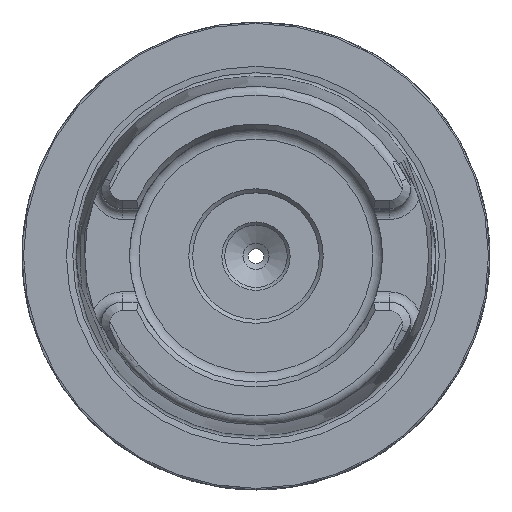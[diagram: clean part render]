
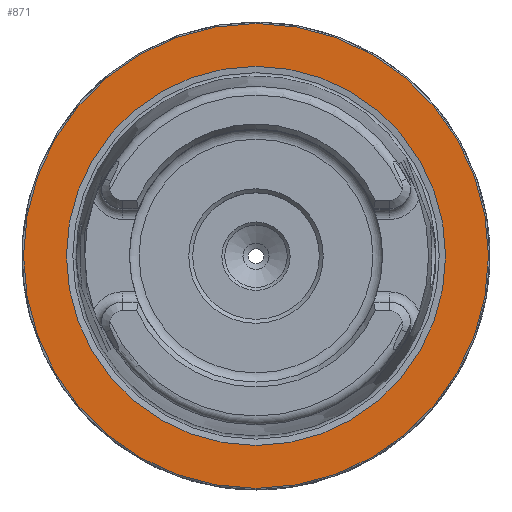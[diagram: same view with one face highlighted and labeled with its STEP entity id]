
A CAD part, top view. The second image highlights one B-rep face of the part: STEP entity #871.
In plain terms, the highlighted planar face has unit normal (0, 0, 1).
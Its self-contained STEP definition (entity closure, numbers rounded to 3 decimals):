
#308=PLANE('',#3475);
#871=ADVANCED_FACE('',(#1132,#1133),#308,.T.);
#1132=FACE_BOUND('',#1310,.T.);
#1133=FACE_BOUND('',#1311,.T.);
#1310=EDGE_LOOP('',(#1759));
#1311=EDGE_LOOP('',(#1760));
#1759=ORIENTED_EDGE('',*,*,#2838,.F.);
#1760=ORIENTED_EDGE('',*,*,#2840,.T.);
#2481=VERTEX_POINT('',#5498);
#2483=VERTEX_POINT('',#5503);
#2838=EDGE_CURVE('',#2481,#2481,#3187,.T.);
#2840=EDGE_CURVE('',#2483,#2483,#3189,.T.);
#3187=CIRCLE('',#3471,25.502);
#3189=CIRCLE('',#3474,31.27);
#3471=AXIS2_PLACEMENT_3D('',#5497,#4071,#4072);
#3474=AXIS2_PLACEMENT_3D('',#5502,#4077,#4078);
#3475=AXIS2_PLACEMENT_3D('',#5504,#4079,#4080);
#4071=DIRECTION('',(0.,0.,1.));
#4072=DIRECTION('',(0.,-1.,0.));
#4077=DIRECTION('',(0.,0.,1.));
#4078=DIRECTION('',(0.,-1.,0.));
#4079=DIRECTION('',(0.,0.,1.));
#4080=DIRECTION('',(0.,-1.,0.));
#5497=CARTESIAN_POINT('',(0.,0.,
0.));
#5498=CARTESIAN_POINT('',(0.,-25.502,0.));
#5502=CARTESIAN_POINT('',(0.,0.,0.));
#5503=CARTESIAN_POINT('',(0.,-31.27,0.));
#5504=CARTESIAN_POINT('',(0.,0.,0.));
